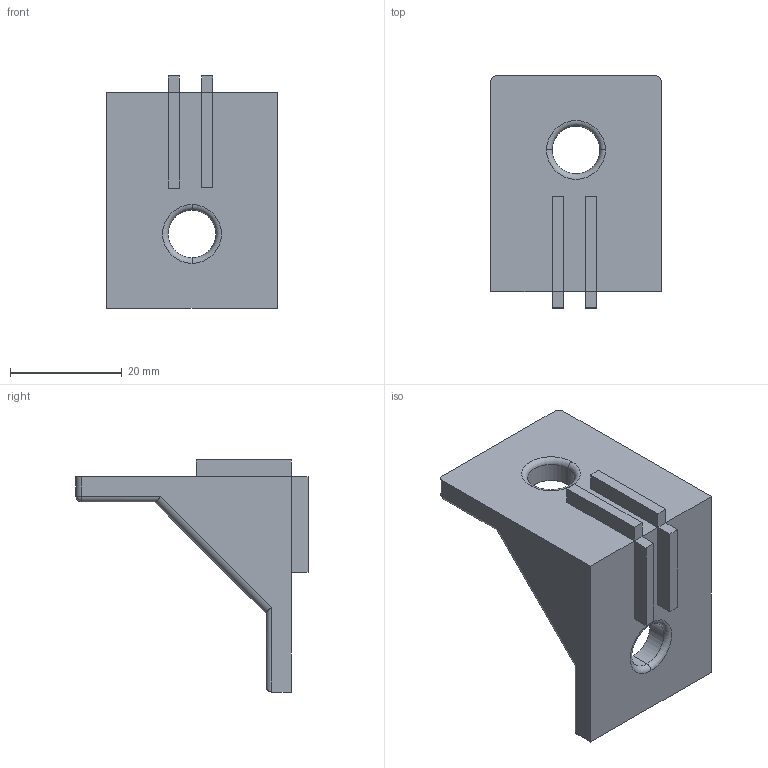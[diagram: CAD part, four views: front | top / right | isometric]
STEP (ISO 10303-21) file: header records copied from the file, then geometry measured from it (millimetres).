
FILE_DESCRIPTION (( 'STEP AP203' ), '1' );
FILE_NAME ('1008.STEP', '2016-03-27T14:33:04', ( '' ), ( '' ), 'SwSTEP 2.0', 'SolidWorks 2014', '' );
FILE_SCHEMA (( 'CONFIG_CONTROL_DESIGN' ));
Length unit declared in the file: millimetre
Products named in the file (1): 1008
Bounding box: 30.5 x 41.5 x 41.51 mm (x, y, z)
Volume: 11156.1 mm3; surface area: 6390.5 mm2
Topology: 1 solids, 1 shells, 51 faces, 134 edges, 83 vertices
Faces by surface type: plane 29, cylinder 16, torus 4, sphere 2
Entity records: 1647 total; most frequent: CARTESIAN_POINT 337, ORIENTED_EDGE 264, DIRECTION 246, EDGE_CURVE 132, LINE 94, VECTOR 94, VERTEX_POINT 83, AXIS2_PLACEMENT_3D 76
